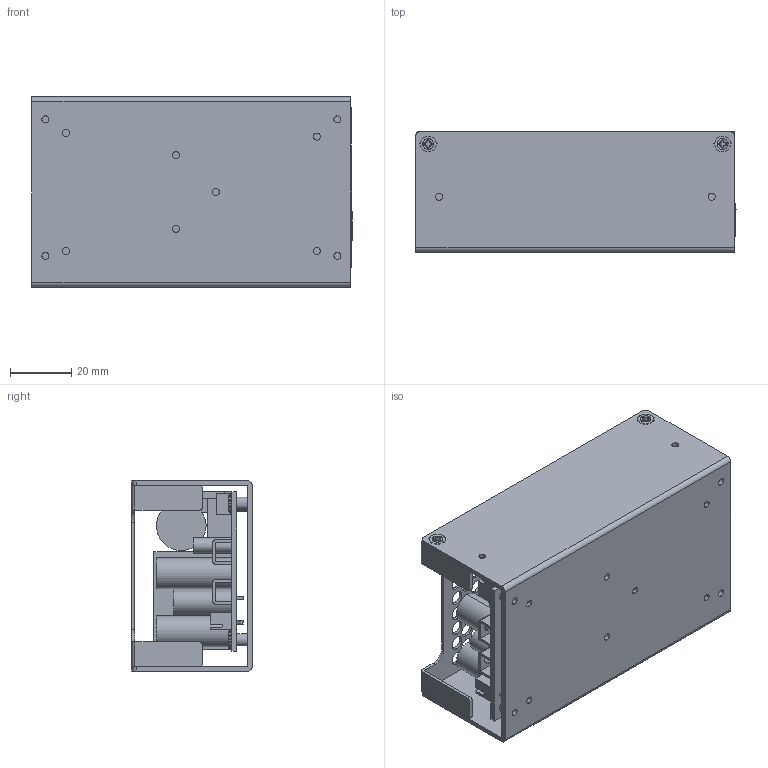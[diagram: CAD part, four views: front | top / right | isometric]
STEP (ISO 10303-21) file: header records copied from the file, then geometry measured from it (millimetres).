
FILE_DESCRIPTION (( 'STEP AP203' ), '1' );
FILE_NAME ('ARF240E.STEP', '2020-03-05T04:41:40', ( '' ), ( '' ), 'SwSTEP 2.0', 'SolidWorks 2016', '' );
FILE_SCHEMA (( 'CONFIG_CONTROL_DESIGN' ));
Length unit declared in the file: millimetre
Products named in the file (10): ARF240; WAFER3.96(2P); SCREW PH M3_04mm; VR; ARF240O; 064_L100_K1-1; ARF240U; ARF240UBC1; ARF240ETC1; ARF240E
Assembly tree (16 placements, depth 4):
  ARF240E
    ARF240U
      ARF240UBC1
      ARF240O
        ARF240
        VR
        WAFER3.96(2P)
        064_L100_K1-1
      SCREW PH M3_04mm  x4
    ARF240ETC1
    SCREW PH M3_04mm  x4
Bounding box: 104.4 x 39.2 x 62 mm (x, y, z)
Volume: 99759.4 mm3; surface area: 70171.7 mm2
Topology: 16 solids, 16 shells, 1396 faces, 3700 edges, 2397 vertices
Faces by surface type: cylinder 632, plane 554, bspline 80, torus 80, cone 50
Entity records: 36568 total; most frequent: CARTESIAN_POINT 7044, ORIENTED_EDGE 5856, DIRECTION 5798, EDGE_CURVE 2928, AXIS2_PLACEMENT_3D 2045, VERTEX_POINT 1935, VECTOR 1708, LINE 1708
